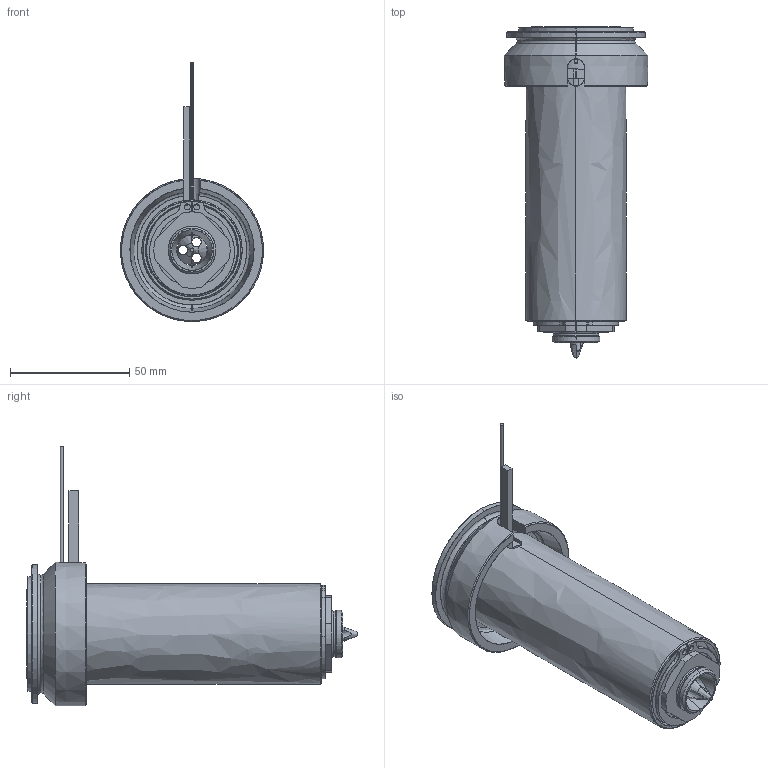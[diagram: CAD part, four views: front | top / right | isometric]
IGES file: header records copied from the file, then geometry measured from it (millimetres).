
Start section: SolidWorks IGES file using analytic representation for surfaces
Global section: file name: C:\Documents and Settings\ws-20\Desktop\TEM\UGEP6005-M-A-0 [Øf-1.6 ØC-17].IGS; native system: SolidWorks 2012; preprocessor: SolidWorks 2012; author: ws-20; date: 120427.094710; units: millimetre
Bounding box: 60 x 139.05 x 108.65 mm (x, y, z)
Surface area: 67582.2 mm2 (no closed solid volume)
Topology: 0 solids, 0 shells, 136 faces, 2526 edges, 2526 vertices
Faces by surface type: revolution 88, bspline 48
